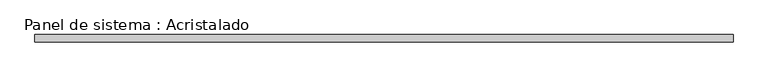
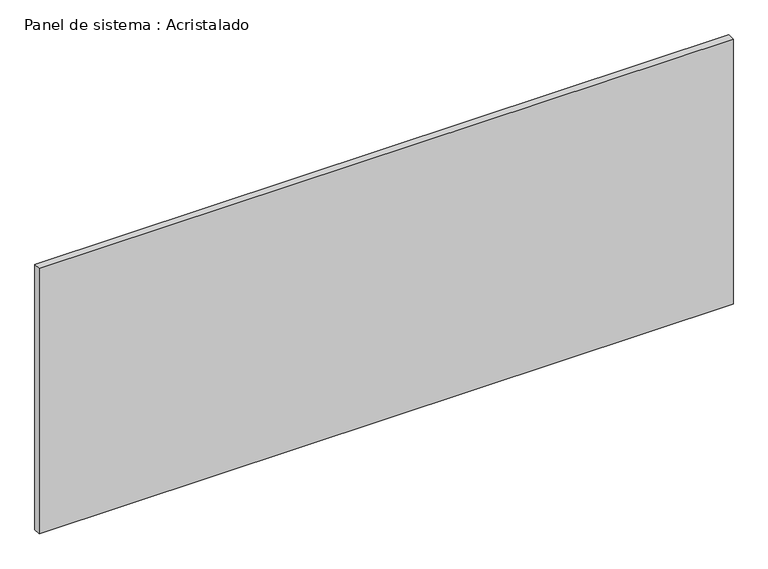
"""IFC4 building model written with IfcOpenShell, lengths in millimetres: plate geometry, Panel de sistema : Acristalado."""

from ifc_helpers import new_model, si_unit, origin, origin_with_axes, place, context, project, spatial, polyline, outline, extrude, source, transform, mapped, element, save


def panel_de_sistema_acristalado_ee007a77(model_context):
    return source(origin(), model_context, "Body", "SweptSolid", [
        extrude(outline(polyline([(940.0, -10.0), (-940.0, -10.0), (-940.0, 10.0), (940.0, 10.0), (940.0, -10.0)])), origin_with_axes(), (0.0, 0.0, 1.0), 760.0),
    ])


if __name__ == "__main__":
    model = new_model("IFC4")
    model_context = context("Model", 3, world=origin())
    ifc_project = project(units=[si_unit("LENGTHUNIT", "METRE", prefix="MILLI")], contexts=[model_context])
    site = spatial("IfcSite", under=ifc_project)
    building = spatial("IfcBuilding", under=site)
    placement = place(None, origin())
    panel_de_sistema_acristalado_shape = panel_de_sistema_acristalado_ee007a77(model_context)
    element("IfcPlate", 1, ObjectType="Panel de sistema : Acristalado", at=placement, inside=building, context=model_context, shape_type="MappedRepresentation", body=[
        mapped(panel_de_sistema_acristalado_shape, transform((0.0, 0.0, 0.0), x_axis=(1.0, 0.0, 0.0), y_axis=(0.0, 1.0, 0.0), z_axis=(0.0, 0.0, 1.0))),
    ])
    save(model, "model.ifc")
